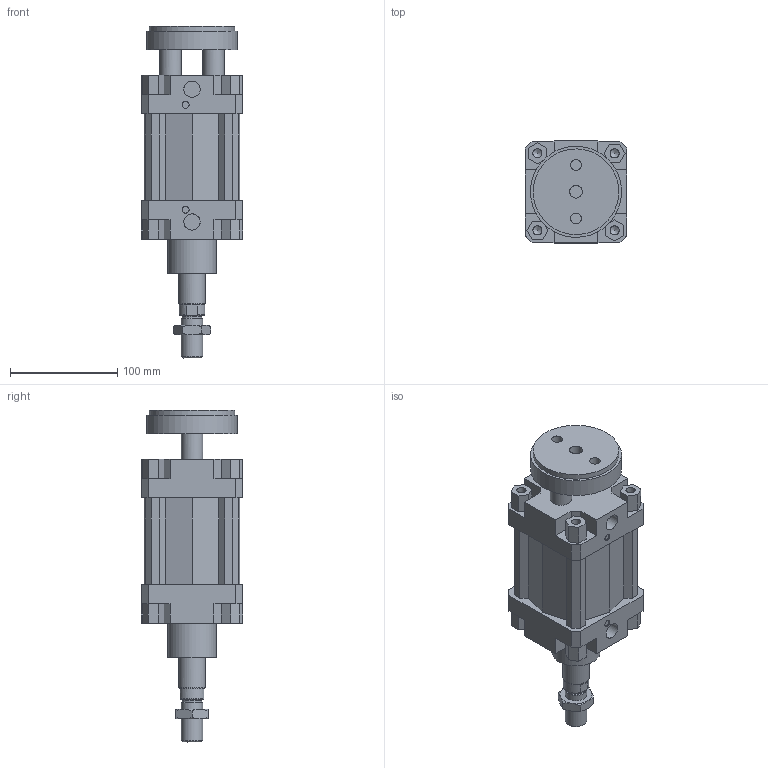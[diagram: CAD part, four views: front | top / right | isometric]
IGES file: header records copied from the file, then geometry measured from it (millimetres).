
Global section: file name: 132#_080_0025_02; native system: Autodesk Inventor 2014; preprocessor: unknown; author: A. Manieri; date: 20161006.162302; units: millimetre
Bounding box: 95 x 95 x 310 mm (x, y, z)
Volume: 1231563.1 mm3; surface area: 200597.7 mm2
Topology: 3 solids, 3 shells, 220 faces, 589 edges, 397 vertices
Faces by surface type: bspline 220
